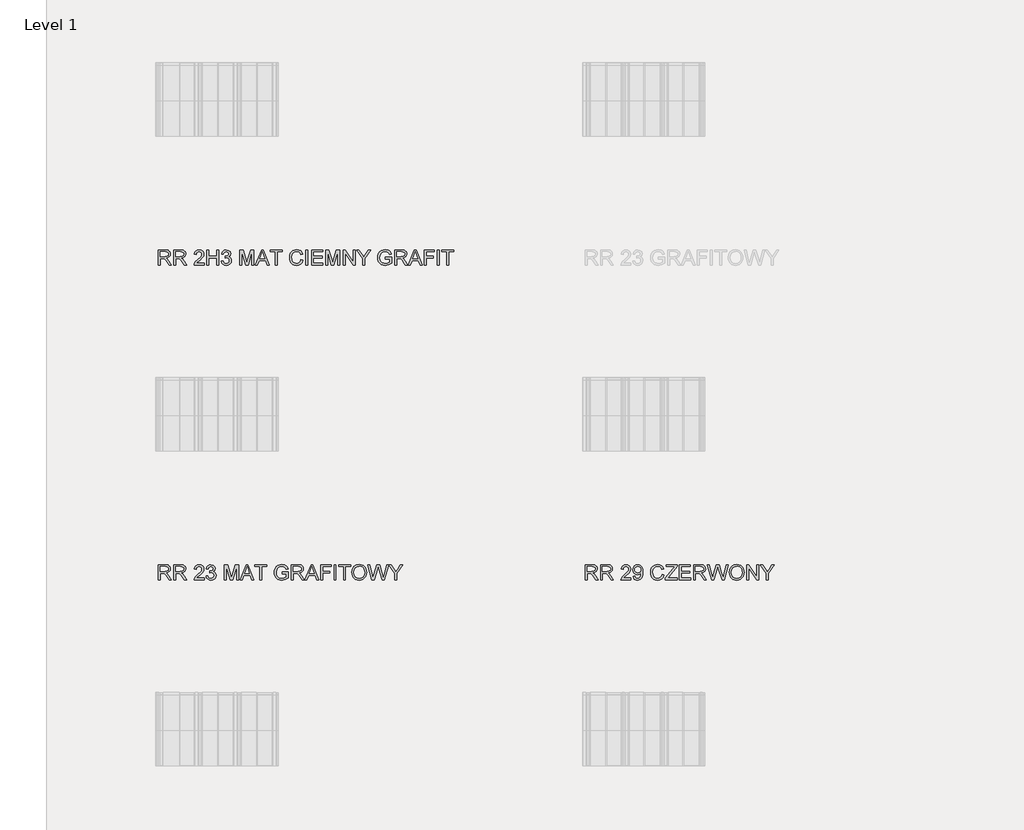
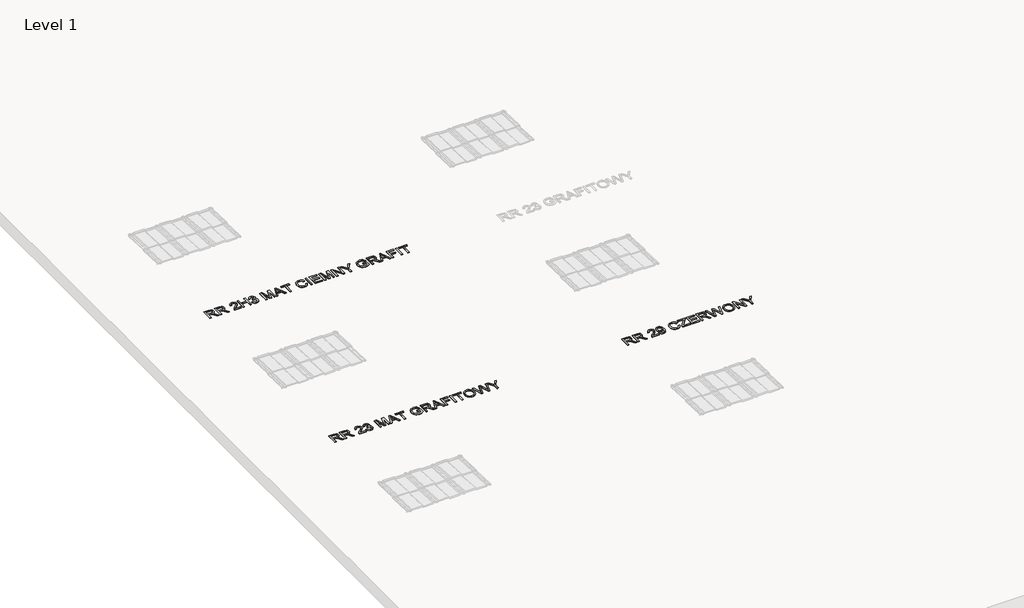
# One storey, part 4 of 9: 3 proxies.
"""IFC4 building model written with IfcOpenShell, lengths in millimetres."""

import ifcopenshell
import ifcopenshell.guid

model = None  # the IFC model being written
_history = None  # IfcOwnerHistory: only IFC2X3 demands one
_inside = {}  # id of a spatial element -> (the spatial element, [elements in it])
_under = {}  # id of a project, library or spatial element -> (it, [spatial elements below it])
_declared = {}  # id of a project -> (the project, [libraries it declares])
_typed = {}  # id of a type object -> (the type object, [elements of that type])
_made_of = {}  # id of a material, layer set ... -> (it, [elements and type objects made of it])


def new_model(schema):
    """Start an empty IFC model of exactly this schema.

    Asked for "IFC4X3", IfcOpenShell would pick the latest addendum, in which some entities
    have other attributes; the version numbers below select the first issue.
    IFC2X3 requires an IfcOwnerHistory on every rooted entity: one is made here for all.
    """
    global model, _history
    if schema == "IFC4X3":
        model = ifcopenshell.file(schema_version=(4, 3, 0, 0))
    else:
        model = ifcopenshell.file(schema=schema)
    _inside.clear()
    _under.clear()
    _declared.clear()
    _typed.clear()
    _made_of.clear()
    _history = None
    if model.schema == "IFC2X3":
        org = make("IfcOrganization", Name="unknown")
        user = make(
            "IfcPersonAndOrganization",
            ThePerson=make("IfcPerson", FamilyName="unknown"),
            TheOrganization=org,
        )
        app = make(
            "IfcApplication",
            ApplicationDeveloper=org,
            Version="unknown",
            ApplicationFullName="unknown",
            ApplicationIdentifier="unknown",
        )
        _history = make(
            "IfcOwnerHistory",
            OwningUser=user,
            OwningApplication=app,
            ChangeAction="ADDED",
            CreationDate=0,
        )
    return model


def make(cls, **values):
    """One entity of the class cls with the attributes given. An attribute that is None is left unset."""
    return model.create_entity(
        cls, **{name: value for name, value in values.items() if value is not None}
    )


def rooted(cls, **values):
    """An entity with a GlobalId (a new one), such as an element, a storey or a relation."""
    return make(cls, GlobalId=ifcopenshell.guid.new(), OwnerHistory=_history, **values)


def si_unit(unit_type, name, prefix=None):
    """IfcSIUnit, for example si_unit("LENGTHUNIT", "METRE", prefix="MILLI")."""
    return make("IfcSIUnit", UnitType=unit_type, Prefix=prefix, Name=name)


def assignment(units):
    """IfcUnitAssignment: the units of a project."""
    return None if units is None else make("IfcUnitAssignment", Units=units)


def point(xyz):
    """IfcCartesianPoint."""
    return None if xyz is None else make("IfcCartesianPoint", Coordinates=xyz)


def direction(xyz):
    """IfcDirection."""
    return None if xyz is None else make("IfcDirection", DirectionRatios=xyz)


def frame(location, z_axis=None, x_axis=None):
    """IfcAxis2Placement3D, a coordinate frame: its origin and axes. An axis left out is left unset."""
    return make(
        "IfcAxis2Placement3D",
        Location=point(location),
        Axis=direction(z_axis),
        RefDirection=direction(x_axis),
    )


def origin():
    """The frame at (0, 0, 0) with its axes left unset."""
    return frame((0.0, 0.0, 0.0))


def place(relative_to, where):
    """IfcLocalPlacement: puts the frame where relative to a parent placement (None: the world)."""
    return make(
        "IfcLocalPlacement", PlacementRelTo=relative_to, RelativePlacement=where
    )


def context(
    kind, dimensions, precision=None, world=None, true_north=None, identifier=None
):
    """IfcGeometricRepresentationContext, for example the 3D "Model" context."""
    return make(
        "IfcGeometricRepresentationContext",
        ContextIdentifier=identifier,
        ContextType=kind,
        CoordinateSpaceDimension=dimensions,
        Precision=precision,
        WorldCoordinateSystem=world,
        TrueNorth=true_north,
    )


def project(units=None, contexts=None):
    """IfcProject with its units and contexts."""
    return rooted(
        "IfcProject",
        Name="project",
        RepresentationContexts=contexts,
        UnitsInContext=assignment(units),
    )


def spatial(cls, under=None, at=None, **own):
    """A site, building, storey or space (cls), placed at a placement, below another one or the project."""
    s = rooted(cls, ObjectPlacement=at, **own)
    if under is not None:
        _under.setdefault(under.id(), (under, []))[1].append(s)
    return s


def polyline(points):
    """IfcPolyline through the points."""
    return make("IfcPolyline", Points=[point(p) for p in points])


def outline(outer, holes=None, kind="AREA"):
    """IfcArbitraryClosedProfileDef: a profile drawn as a closed curve; with holes, ...WithVoids."""
    if holes is None:
        return make("IfcArbitraryClosedProfileDef", ProfileType=kind, OuterCurve=outer)
    return make(
        "IfcArbitraryProfileDefWithVoids",
        ProfileType=kind,
        OuterCurve=outer,
        InnerCurves=holes,
    )


def extrude(swept, where, along, depth):
    """IfcExtrudedAreaSolid: the profile swept, set in the frame where, extruded along a direction by depth."""
    return make(
        "IfcExtrudedAreaSolid",
        SweptArea=swept,
        Position=where,
        ExtrudedDirection=direction(along),
        Depth=depth,
    )


def shape(context_of_items, identifier, shape_type, items):
    """IfcShapeRepresentation: the items that make up one representation, for example the "Body"."""
    return make(
        "IfcShapeRepresentation",
        ContextOfItems=context_of_items,
        RepresentationIdentifier=identifier,
        RepresentationType=shape_type,
        Items=items,
    )


def made_of(thing, what):
    """Note that an element or type object is made of a material, layer set ...; save() writes the relation."""
    if what is not None:
        _made_of.setdefault(what.id(), (what, []))[1].append(thing)
    return thing


def element(
    cls,
    number,
    at=None,
    inside=None,
    cuts=None,
    type_object=None,
    material=None,
    context=None,
    identifier="Body",
    shape_type=None,
    held_by="IfcProductDefinitionShape",
    body=None,
    shapes=None,
    **own,
):
    """One element of the class cls, such as IfcWall. Its Tag is "e" and its number.

    at: its placement. inside: the storey or other place that contains it. cuts: it is an
    opening in that element (IfcRelVoidsElement). A single representation is given by context,
    identifier, shape_type and body (its items); several are given by shapes. held_by: the class
    of the entity that holds the representations. save() writes the other relations.
    """
    e = rooted(cls, Tag="e%d" % number, ObjectPlacement=at, **own)
    if body is not None:
        shapes = [shape(context, identifier, shape_type, body)]
    if shapes is not None:
        e.Representation = make(held_by, Representations=shapes)
    if inside is not None:
        _inside.setdefault(inside.id(), (inside, []))[1].append(e)
    if cuts is not None:
        rooted(
            "IfcRelVoidsElement", RelatingBuildingElement=cuts, RelatedOpeningElement=e
        )
    if type_object is not None:
        _typed.setdefault(type_object.id(), (type_object, []))[1].append(e)
    return made_of(e, material)


def aggregate(whole, parts):
    """IfcRelAggregates: a whole, such as a stair, and the parts it consists of."""
    return rooted("IfcRelAggregates", RelatingObject=whole, RelatedObjects=parts)


def save(model, path):
    """Write the relations noted so far, then the file.

    IfcRelAggregates (storeys below a building ...), IfcRelContainedInSpatialStructure (elements
    in a storey), IfcRelDefinesByType, IfcRelAssociatesMaterial and IfcRelDeclares: one each for
    every whole, place, type object, material and project.
    """
    for whole, parts in _under.values():
        aggregate(whole, parts)
    for where, things in _inside.values():
        rooted(
            "IfcRelContainedInSpatialStructure",
            RelatedElements=things,
            RelatingStructure=where,
        )
    for kind, things in _typed.values():
        rooted("IfcRelDefinesByType", RelatedObjects=things, RelatingType=kind)
    for what, things in _made_of.values():
        rooted("IfcRelAssociatesMaterial", RelatedObjects=things, RelatingMaterial=what)
    for by, libraries in _declared.values():
        rooted("IfcRelDeclares", RelatingContext=by, RelatedDefinitions=libraries)
    model.write(path)


model = new_model("IFC4")

# Units and contexts
model_context = context("Model", 3, world=origin())
ifc_project = project(units=[si_unit("LENGTHUNIT", "METRE", prefix="MILLI")], contexts=[model_context])

# Site, building, storey
site = spatial("IfcSite", under=ifc_project)
building = spatial("IfcBuilding", under=site)
storey = spatial("IfcBuildingStorey", under=building, Name="Level 1", Elevation=0.0)

# Proxies
placement = place(None, origin())
element("IfcBuildingElementProxy", 1, Name="150 Blue", ObjectType="150 Blue", at=placement, inside=storey, context=model_context, shape_type="SweptSolid", body=[
    extrude(outline(polyline([(-8736.4118342, -1635.6514112), (-8736.4118342, -1484.966946), (-8671.4806621, -1484.966946), (-8641.3327325, -1489.032042), (-8632.0529092, -1494.6606365), (-8624.8516192, -1503.416228), (-8620.2301016, -1514.2733454), (-8618.6895957, -1526.2065176), (-8621.2417771, -1541.0505561), (-8628.8983211, -1553.3562089), (-8641.8891541, -1562.3785148), (-8660.4442022, -1567.3725129), (-8649.7388361, -1575.4291286), (-8634.4717333, -1594.8165097), (-8609.3453931, -1635.6514112), (-8631.2343718, -1635.6514112), (-8650.8424821, -1604.4182298), (-8665.0059389, -1583.7432617), (-8674.9571469, -1573.9759947), (-8683.9150735, -1570.3891452), (-8694.8411687, -1569.7269577), (-8717.576276, -1569.7269577), (-8717.576276, -1635.6514112), (-8736.4118342, -1635.6514112)]), holes=[polyline([(-8717.576276, -1550.8913995), (-8675.4169994, -1550.8913995), (-8653.9142968, -1548.224255), (-8641.7006145, -1539.6893927), (-8637.5251539, -1526.9054934), (-8639.5163152, -1517.7176406), (-8645.4897991, -1510.3140154), (-8655.7675023, -1505.4303819), (-8670.6713217, -1503.8025041), (-8717.576276, -1503.8025041), (-8717.576276, -1550.8913995)])]), frame((0.0, 0.0, 600.0), z_axis=(0.0, 0.0, 1.0), x_axis=(1.0, 0.0, 0.0)), (0.0, 0.0, 1.0), 10.0),
    extrude(outline(polyline([(-8585.727369, -1635.6514112), (-8585.727369, -1484.966946), (-8520.7961968, -1484.966946), (-8490.6482673, -1489.032042), (-8481.368444, -1494.6606365), (-8474.1671539, -1503.416228), (-8469.5456364, -1514.2733454), (-8468.0051305, -1526.2065176), (-8470.5573119, -1541.0505561), (-8478.2138559, -1553.3562089), (-8491.2046888, -1562.3785148), (-8509.759737, -1567.3725129), (-8499.0543709, -1575.4291286), (-8483.7872681, -1594.8165097), (-8458.6609278, -1635.6514112), (-8480.5499066, -1635.6514112), (-8500.1580169, -1604.4182298), (-8514.3214737, -1583.7432617), (-8524.2726817, -1573.9759947), (-8533.2306083, -1570.3891452), (-8544.1567035, -1569.7269577), (-8566.8918108, -1569.7269577), (-8566.8918108, -1635.6514112), (-8585.727369, -1635.6514112)]), holes=[polyline([(-8566.8918108, -1550.8913995), (-8524.7325342, -1550.8913995), (-8503.2298316, -1548.224255), (-8491.0161493, -1539.6893927), (-8486.8406887, -1526.9054934), (-8488.83185, -1517.7176406), (-8494.8053339, -1510.3140154), (-8505.0830371, -1505.4303819), (-8519.9868564, -1503.8025041), (-8566.8918108, -1503.8025041), (-8566.8918108, -1550.8913995)])]), frame((0.0, 0.0, 600.0), z_axis=(0.0, 0.0, 1.0), x_axis=(1.0, 0.0, 0.0)), (0.0, 0.0, 1.0), 10.0),
    extrude(outline(polyline([(-8286.7128833, -1616.815853), (-8286.7128833, -1635.6514112), (-8385.5995636, -1635.6514112), (-8383.5762126, -1622.6651768), (-8372.1166885, -1602.6707903), (-8348.5170585, -1580.8369939), (-8316.0146842, -1549.4566597), (-8309.9308357, -1538.6409291), (-8307.9028862, -1528.119504), (-8309.8204711, -1518.6879293), (-8315.5732258, -1510.8474443), (-8324.4161893, -1505.5637392), (-8335.6044005, -1503.8025041), (-8347.3536317, -1505.5223524), (-8356.4817037, -1510.6818974), (-8362.3724141, -1518.8764689), (-8364.4095607, -1529.7013966), (-8383.2451188, -1527.3469518), (-8378.6787836, -1509.127596), (-8368.8057505, -1495.8194648), (-8354.1410545, -1487.6800757), (-8335.1997303, -1484.966946), (-8316.1204503, -1487.9835783), (-8301.4833454, -1497.0334754), (-8292.1713324, -1510.5531387), (-8289.0673281, -1526.9790698), (-8292.4150542, -1544.8397407), (-8303.5434846, -1563.3074168), (-8330.5276289, -1589.1143388), (-8352.1958784, -1607.2325271), (-8360.6939525, -1616.815853), (-8286.7128833, -1616.815853)])), frame((0.0, 0.0, 600.0), z_axis=(0.0, 0.0, 1.0), x_axis=(1.0, 0.0, 0.0)), (0.0, 0.0, 1.0), 10.0),
    extrude(outline(polyline([(-8260.8139908, -1635.6514112), (-8260.8139908, -1484.966946), (-8241.9784327, -1484.966946), (-8241.9784327, -1546.18251), (-8161.9273105, -1546.18251), (-8161.9273105, -1484.966946), (-8143.0917524, -1484.966946), (-8143.0917524, -1635.6514112), (-8161.9273105, -1635.6514112), (-8161.9273105, -1565.0180681), (-8241.9784327, -1565.0180681), (-8241.9784327, -1635.6514112), (-8260.8139908, -1635.6514112)])), frame((0.0, 0.0, 600.0), z_axis=(0.0, 0.0, 1.0), x_axis=(1.0, 0.0, 0.0)), (0.0, 0.0, 1.0), 10.0),
    extrude(outline(polyline([(-8117.1928599, -1595.6258501), (-8098.3573018, -1593.2714053), (-8094.1404544, -1605.1080085), (-8087.9646354, -1613.1002449), (-8079.5263421, -1617.6527846), (-8068.522072, -1619.1702978), (-8055.6094139, -1617.0825675), (-8045.6398119, -1610.8193765), (-8039.2662563, -1601.4751738), (-8037.1417378, -1590.1444084), (-8039.2478622, -1579.3884586), (-8045.5662355, -1570.6650567), (-8055.1311673, -1564.8847109), (-8066.9769676, -1562.9579289), (-8080.1839312, -1565.0180681), (-8078.0870038, -1546.18251), (-8075.0703715, -1546.4032392), (-8053.6964276, -1540.9953738), (-8046.5779109, -1534.1343746), (-8044.2050721, -1524.3671076), (-8045.9249204, -1516.232317), (-8051.0844654, -1509.6334337), (-8058.9571401, -1505.2602365), (-8068.8163776, -1503.8025041), (-8078.6940091, -1505.2740321), (-8086.7690189, -1509.688616), (-8092.6643279, -1517.0462559), (-8096.002857, -1527.3469518), (-8114.8384152, -1524.992507), (-8109.2925941, -1508.0791323), (-8099.4241596, -1495.4515828), (-8085.9228903, -1487.5881052), (-8069.4785651, -1484.966946), (-8046.7618519, -1490.135688), (-8030.8693498, -1504.2623566), (-8025.3695139, -1523.2634617), (-8030.5934383, -1540.6274918), (-8046.0444821, -1553.0986915), (-8034.2538641, -1557.8627633), (-8025.5166667, -1565.9745613), (-8020.1088014, -1576.9926271), (-8018.3061796, -1590.4755022), (-8021.9114232, -1608.8328137), (-8032.7271538, -1624.1734929), (-8049.0519174, -1634.5477652), (-8069.1842596, -1638.005856), (-8087.3944183, -1635.0536029), (-8102.2200627, -1626.1968439), (-8112.5299556, -1612.6495894), (-8117.1928599, -1595.6258501)])), frame((0.0, 0.0, 600.0), z_axis=(0.0, 0.0, 1.0), x_axis=(1.0, 0.0, 0.0)), (0.0, 0.0, 1.0), 10.0),
    extrude(outline(polyline([(-7935.9006127, -1635.6514112), (-7935.9006127, -1484.966946), (-7903.6005735, -1484.966946), (-7872.6984859, -1591.174478), (-7866.444492, -1613.3577623), (-7859.7122515, -1589.335068), (-7829.3987751, -1484.966946), (-7796.9883713, -1484.966946), (-7796.9883713, -1635.6514112), (-7815.8239295, -1635.6514112), (-7815.8239295, -1503.8025041), (-7853.6789868, -1635.6514112), (-7879.173209, -1635.6514112), (-7917.0650545, -1503.8025041), (-7917.0650545, -1635.6514112), (-7935.9006127, -1635.6514112)])), frame((0.0, 0.0, 600.0), z_axis=(0.0, 0.0, 1.0), x_axis=(1.0, 0.0, 0.0)), (0.0, 0.0, 1.0), 10.0),
    extrude(outline(polyline([(-7781.5373275, -1635.6514112), (-7721.3886213, -1484.966946), (-7705.3489663, -1484.966946), (-7645.2370483, -1635.6514112), (-7665.1394642, -1635.6514112), (-7682.3563416, -1588.5625158), (-7744.4548224, -1588.5625158), (-7761.6716998, -1635.6514112), (-7781.5373275, -1635.6514112)]), holes=[polyline([(-7737.5386409, -1569.7269577), (-7689.2357349, -1569.7269577), (-7702.8473688, -1532.6812407), (-7713.405582, -1503.8025041), (-7722.7865729, -1529.4438792), (-7737.5386409, -1569.7269577)])]), frame((0.0, 0.0, 600.0), z_axis=(0.0, 0.0, 1.0), x_axis=(1.0, 0.0, 0.0)), (0.0, 0.0, 1.0), 10.0),
    extrude(outline(polyline([(-7587.4427869, -1635.6514112), (-7587.4427869, -1503.8025041), (-7636.886127, -1503.8025041), (-7636.886127, -1484.966946), (-7519.1638886, -1484.966946), (-7519.1638886, -1503.8025041), (-7568.6072287, -1503.8025041), (-7568.6072287, -1635.6514112), (-7587.4427869, -1635.6514112)])), frame((0.0, 0.0, 600.0), z_axis=(0.0, 0.0, 1.0), x_axis=(1.0, 0.0, 0.0)), (0.0, 0.0, 1.0), 10.0),
    extrude(outline(polyline([(-7333.1627518, -1582.0877927), (-7314.3271936, -1586.943835), (-7323.0184058, -1608.8925946), (-7336.6576308, -1624.927651), (-7354.5734839, -1634.7363047), (-7376.0945806, -1638.005856), (-7397.9421726, -1635.5318495), (-7415.2924072, -1628.1098303), (-7428.5913413, -1615.9973156), (-7438.2850319, -1599.4518229), (-7444.2033335, -1580.0000624), (-7446.1761007, -1559.1687444), (-7443.9458161, -1537.1969922), (-7437.2549623, -1518.2234783), (-7426.4530273, -1502.8506095), (-7411.8894988, -1491.6807924), (-7394.6174391, -1484.879574), (-7375.6899104, -1482.6125012), (-7355.0379349, -1485.5463601), (-7337.9636118, -1494.3479368), (-7325.00037, -1508.4746055), (-7316.6816384, -1527.38374), (-7335.5171966, -1531.8719003), (-7342.047102, -1518.1361064), (-7350.9682404, -1508.7137288), (-7362.3909763, -1503.2644767), (-7376.4256744, -1501.4480593), (-7392.6032852, -1503.4622133), (-7405.8930222, -1509.504675), (-7415.9775874, -1518.9408482), (-7422.5396825, -1531.1361364), (-7427.3405426, -1559.1319562), (-7425.9195984, -1576.5327746), (-7421.6567657, -1591.5791482), (-7414.3910963, -1603.6962614), (-7403.9616418, -1612.3092986), (-7391.4582525, -1617.455048), (-7377.9707788, -1619.1702978), (-7362.248422, -1616.8342471), (-7349.1472245, -1609.8260951), (-7339.2557973, -1598.2194182), (-7333.1627518, -1582.0877927)])), frame((0.0, 0.0, 600.0), z_axis=(0.0, 0.0, 1.0), x_axis=(1.0, 0.0, 0.0)), (0.0, 0.0, 1.0), 10.0),
    extrude(outline(polyline([(-7286.0738564, -1635.6514112), (-7286.0738564, -1484.966946), (-7267.2382983, -1484.966946), (-7267.2382983, -1635.6514112), (-7286.0738564, -1635.6514112)])), frame((0.0, 0.0, 600.0), z_axis=(0.0, 0.0, 1.0), x_axis=(1.0, 0.0, 0.0)), (0.0, 0.0, 1.0), 10.0),
    extrude(outline(polyline([(-7229.567182, -1635.6514112), (-7229.567182, -1484.966946), (-7121.2627226, -1484.966946), (-7121.2627226, -1503.8025041), (-7210.7316238, -1503.8025041), (-7210.7316238, -1548.5369547), (-7125.9716121, -1548.5369547), (-7125.9716121, -1567.3725129), (-7210.7316238, -1567.3725129), (-7210.7316238, -1616.815853), (-7118.9082778, -1616.815853), (-7118.9082778, -1635.6514112), (-7229.567182, -1635.6514112)])), frame((0.0, 0.0, 600.0), z_axis=(0.0, 0.0, 1.0), x_axis=(1.0, 0.0, 0.0)), (0.0, 0.0, 1.0), 10.0),
    extrude(outline(polyline([(-7090.6549406, -1635.6514112), (-7090.6549406, -1484.966946), (-7058.3549014, -1484.966946), (-7027.4528138, -1591.174478), (-7021.1988199, -1613.3577623), (-7014.4665794, -1589.335068), (-6984.153103, -1484.966946), (-6951.7426992, -1484.966946), (-6951.7426992, -1635.6514112), (-6970.5782574, -1635.6514112), (-6970.5782574, -1503.8025041), (-7008.4333147, -1635.6514112), (-7033.9275369, -1635.6514112), (-7071.8193824, -1503.8025041), (-7071.8193824, -1635.6514112), (-7090.6549406, -1635.6514112)])), frame((0.0, 0.0, 600.0), z_axis=(0.0, 0.0, 1.0), x_axis=(1.0, 0.0, 0.0)), (0.0, 0.0, 1.0), 10.0),
    extrude(outline(polyline([(-6918.7804724, -1635.6514112), (-6918.7804724, -1484.966946), (-6898.6205391, -1484.966946), (-6819.8937921, -1604.3446534), (-6819.8937921, -1484.966946), (-6801.058234, -1484.966946), (-6801.058234, -1635.6514112), (-6821.2181673, -1635.6514112), (-6899.9449143, -1516.2369156), (-6899.9449143, -1635.6514112), (-6918.7804724, -1635.6514112)])), frame((0.0, 0.0, 600.0), z_axis=(0.0, 0.0, 1.0), x_axis=(1.0, 0.0, 0.0)), (0.0, 0.0, 1.0), 10.0),
    extrude(outline(polyline([(-6725.7160014, -1635.6514112), (-6725.7160014, -1571.823885), (-6784.5771206, -1484.966946), (-6762.3938363, -1484.966946), (-6730.9767139, -1531.3568656), (-6714.9002707, -1555.048466), (-6698.7502511, -1529.6646084), (-6670.2393965, -1484.966946), (-6648.019324, -1484.966946), (-6706.8804432, -1571.823885), (-6706.8804432, -1635.6514112), (-6725.7160014, -1635.6514112)])), frame((0.0, 0.0, 600.0), z_axis=(0.0, 0.0, 1.0), x_axis=(1.0, 0.0, 0.0)), (0.0, 0.0, 1.0), 10.0),
    extrude(outline(polyline([(-6502.0437483, -1576.790292), (-6502.0437483, -1557.9547338), (-6440.8281843, -1557.9547338), (-6440.8281843, -1614.2774673), (-6471.0496902, -1632.0461676), (-6503.0002415, -1638.005856), (-6524.1304636, -1635.6376156), (-6543.2281377, -1628.5328946), (-6559.0930487, -1616.9400132), (-6570.5249817, -1601.1072918), (-6577.4365647, -1582.1153838), (-6579.7404257, -1561.0449426), (-6577.4457617, -1539.82275), (-6570.5617699, -1520.0812824), (-6559.3735587, -1503.5219941), (-6544.1662367, -1491.8463393), (-6525.6433783, -1484.9209607), (-6504.5085577, -1482.6125012), (-6475.0412099, -1487.9651842), (-6463.2919786, -1494.3663309), (-6454.3846358, -1502.864405), (-6442.9986881, -1527.7884102), (-6460.3627182, -1532.6812407), (-6468.9527628, -1515.2620283), (-6483.6312544, -1505.2188498), (-6504.8028633, -1501.4480593), (-6528.917528, -1505.5131554), (-6545.325065, -1516.1817333), (-6555.0187556, -1530.694678), (-6560.9048675, -1560.2723904), (-6559.1344354, -1578.2848126), (-6553.8231391, -1593.1058584), (-6545.131927, -1604.6297619), (-6533.2217474, -1612.750757), (-6519.2836183, -1617.5654126), (-6504.5085577, -1619.1702978), (-6478.7384239, -1614.3326496), (-6459.6637425, -1604.0135596), (-6459.6637425, -1576.790292), (-6502.0437483, -1576.790292)])), frame((0.0, 0.0, 600.0), z_axis=(0.0, 0.0, 1.0), x_axis=(1.0, 0.0, 0.0)), (0.0, 0.0, 1.0), 10.0),
    extrude(outline(polyline([(-6410.2204023, -1635.6514112), (-6410.2204023, -1484.966946), (-6345.2892302, -1484.966946), (-6315.1413006, -1489.032042), (-6305.8614773, -1494.6606365), (-6298.6601873, -1503.416228), (-6294.0386697, -1514.2733454), (-6292.4981638, -1526.2065176), (-6295.0503452, -1541.0505561), (-6302.7068892, -1553.3562089), (-6315.6977222, -1562.3785148), (-6334.2527703, -1567.3725129), (-6323.5474042, -1575.4291286), (-6308.2803014, -1594.8165097), (-6283.1539612, -1635.6514112), (-6305.0429399, -1635.6514112), (-6324.6510502, -1604.4182298), (-6338.814507, -1583.7432617), (-6348.765715, -1573.9759947), (-6357.7236416, -1570.3891452), (-6368.6497368, -1569.7269577), (-6391.3848441, -1569.7269577), (-6391.3848441, -1635.6514112), (-6410.2204023, -1635.6514112)]), holes=[polyline([(-6391.3848441, -1550.8913995), (-6349.2255675, -1550.8913995), (-6327.7228649, -1548.224255), (-6315.5091826, -1539.6893927), (-6311.333722, -1526.9054934), (-6313.3248833, -1517.7176406), (-6319.2983672, -1510.3140154), (-6329.5760704, -1505.4303819), (-6344.4798898, -1503.8025041), (-6391.3848441, -1503.8025041), (-6391.3848441, -1550.8913995)])]), frame((0.0, 0.0, 600.0), z_axis=(0.0, 0.0, 1.0), x_axis=(1.0, 0.0, 0.0)), (0.0, 0.0, 1.0), 10.0),
    extrude(outline(polyline([(-6277.04712, -1635.6514112), (-6216.8984138, -1484.966946), (-6200.8587588, -1484.966946), (-6140.7468408, -1635.6514112), (-6160.6492568, -1635.6514112), (-6177.8661341, -1588.5625158), (-6239.9646149, -1588.5625158), (-6257.1814923, -1635.6514112), (-6277.04712, -1635.6514112)]), holes=[polyline([(-6233.0484334, -1569.7269577), (-6184.7455275, -1569.7269577), (-6198.3571613, -1532.6812407), (-6208.9153745, -1503.8025041), (-6218.2963654, -1529.4438792), (-6233.0484334, -1569.7269577)])]), frame((0.0, 0.0, 600.0), z_axis=(0.0, 0.0, 1.0), x_axis=(1.0, 0.0, 0.0)), (0.0, 0.0, 1.0), 10.0),
    extrude(outline(polyline([(-6120.6236957, -1635.6514112), (-6120.6236957, -1484.966946), (-6019.3825706, -1484.966946), (-6019.3825706, -1503.8025041), (-6101.7881375, -1503.8025041), (-6101.7881375, -1548.5369547), (-6031.1547945, -1548.5369547), (-6031.1547945, -1567.3725129), (-6101.7881375, -1567.3725129), (-6101.7881375, -1635.6514112), (-6120.6236957, -1635.6514112)])), frame((0.0, 0.0, 600.0), z_axis=(0.0, 0.0, 1.0), x_axis=(1.0, 0.0, 0.0)), (0.0, 0.0, 1.0), 10.0),
    extrude(outline(polyline([(-5991.1292334, -1635.6514112), (-5991.1292334, -1484.966946), (-5972.2936752, -1484.966946), (-5972.2936752, -1635.6514112), (-5991.1292334, -1635.6514112)])), frame((0.0, 0.0, 600.0), z_axis=(0.0, 0.0, 1.0), x_axis=(1.0, 0.0, 0.0)), (0.0, 0.0, 1.0), 10.0),
    extrude(outline(polyline([(-5896.9514426, -1635.6514112), (-5896.9514426, -1503.8025041), (-5946.3947828, -1503.8025041), (-5946.3947828, -1484.966946), (-5828.6725443, -1484.966946), (-5828.6725443, -1503.8025041), (-5878.1158845, -1503.8025041), (-5878.1158845, -1635.6514112), (-5896.9514426, -1635.6514112)])), frame((0.0, 0.0, 600.0), z_axis=(0.0, 0.0, 1.0), x_axis=(1.0, 0.0, 0.0)), (0.0, 0.0, 1.0), 10.0),
])
element("IfcBuildingElementProxy", 2, Name="150 Blue", ObjectType="150 Blue", at=placement, inside=storey, context=model_context, shape_type="SweptSolid", body=[
    extrude(outline(polyline([(-8736.4118342, -4735.6514112), (-8736.4118342, -4584.966946), (-8671.4806621, -4584.966946), (-8641.3327325, -4589.032042), (-8632.0529092, -4594.6606365), (-8624.8516192, -4603.416228), (-8620.2301016, -4614.2733454), (-8618.6895957, -4626.2065176), (-8621.2417771, -4641.0505561), (-8628.8983211, -4653.3562089), (-8641.8891541, -4662.3785148), (-8660.4442022, -4667.3725129), (-8649.7388361, -4675.4291286), (-8634.4717333, -4694.8165097), (-8609.3453931, -4735.6514112), (-8631.2343718, -4735.6514112), (-8650.8424821, -4704.4182298), (-8665.0059389, -4683.7432617), (-8674.9571469, -4673.9759947), (-8683.9150735, -4670.3891452), (-8694.8411687, -4669.7269577), (-8717.576276, -4669.7269577), (-8717.576276, -4735.6514112), (-8736.4118342, -4735.6514112)]), holes=[polyline([(-8717.576276, -4650.8913995), (-8675.4169994, -4650.8913995), (-8653.9142968, -4648.224255), (-8641.7006145, -4639.6893927), (-8637.5251539, -4626.9054934), (-8639.5163152, -4617.7176406), (-8645.4897991, -4610.3140154), (-8655.7675023, -4605.4303819), (-8670.6713217, -4603.8025041), (-8717.576276, -4603.8025041), (-8717.576276, -4650.8913995)])]), frame((0.0, 0.0, 600.0), z_axis=(0.0, 0.0, 1.0), x_axis=(1.0, 0.0, 0.0)), (0.0, 0.0, 1.0), 10.0),
    extrude(outline(polyline([(-8585.727369, -4735.6514112), (-8585.727369, -4584.966946), (-8520.7961968, -4584.966946), (-8490.6482673, -4589.032042), (-8481.368444, -4594.6606365), (-8474.1671539, -4603.416228), (-8469.5456364, -4614.2733454), (-8468.0051305, -4626.2065176), (-8470.5573119, -4641.0505561), (-8478.2138559, -4653.3562089), (-8491.2046888, -4662.3785148), (-8509.759737, -4667.3725129), (-8499.0543709, -4675.4291286), (-8483.7872681, -4694.8165097), (-8458.6609278, -4735.6514112), (-8480.5499066, -4735.6514112), (-8500.1580169, -4704.4182298), (-8514.3214737, -4683.7432617), (-8524.2726817, -4673.9759947), (-8533.2306083, -4670.3891452), (-8544.1567035, -4669.7269577), (-8566.8918108, -4669.7269577), (-8566.8918108, -4735.6514112), (-8585.727369, -4735.6514112)]), holes=[polyline([(-8566.8918108, -4650.8913995), (-8524.7325342, -4650.8913995), (-8503.2298316, -4648.224255), (-8491.0161493, -4639.6893927), (-8486.8406887, -4626.9054934), (-8488.83185, -4617.7176406), (-8494.8053339, -4610.3140154), (-8505.0830371, -4605.4303819), (-8519.9868564, -4603.8025041), (-8566.8918108, -4603.8025041), (-8566.8918108, -4650.8913995)])]), frame((0.0, 0.0, 600.0), z_axis=(0.0, 0.0, 1.0), x_axis=(1.0, 0.0, 0.0)), (0.0, 0.0, 1.0), 10.0),
    extrude(outline(polyline([(-8286.7128833, -4716.815853), (-8286.7128833, -4735.6514112), (-8385.5995636, -4735.6514112), (-8383.5762126, -4722.6651768), (-8372.1166885, -4702.6707903), (-8348.5170585, -4680.8369939), (-8316.0146842, -4649.4566597), (-8309.9308357, -4638.6409291), (-8307.9028862, -4628.119504), (-8309.8204711, -4618.6879293), (-8315.5732258, -4610.8474443), (-8324.4161893, -4605.5637392), (-8335.6044005, -4603.8025041), (-8347.3536317, -4605.5223524), (-8356.4817037, -4610.6818974), (-8362.3724141, -4618.8764689), (-8364.4095607, -4629.7013966), (-8383.2451188, -4627.3469518), (-8378.6787836, -4609.127596), (-8368.8057505, -4595.8194648), (-8354.1410545, -4587.6800757), (-8335.1997303, -4584.966946), (-8316.1204503, -4587.9835783), (-8301.4833454, -4597.0334754), (-8292.1713324, -4610.5531387), (-8289.0673281, -4626.9790698), (-8292.4150542, -4644.8397407), (-8303.5434846, -4663.3074168), (-8330.5276289, -4689.1143388), (-8352.1958784, -4707.2325271), (-8360.6939525, -4716.815853), (-8286.7128833, -4716.815853)])), frame((0.0, 0.0, 600.0), z_axis=(0.0, 0.0, 1.0), x_axis=(1.0, 0.0, 0.0)), (0.0, 0.0, 1.0), 10.0),
    extrude(outline(polyline([(-8267.8773251, -4695.6258501), (-8249.041767, -4693.2714053), (-8244.8249196, -4705.1080085), (-8238.6491006, -4713.1002449), (-8230.2108074, -4717.6527846), (-8219.2065372, -4719.1702978), (-8206.2938792, -4717.0825675), (-8196.3242771, -4710.8193765), (-8189.9507215, -4701.4751738), (-8187.826203, -4690.1444084), (-8189.9323274, -4679.3884586), (-8196.2507007, -4670.6650567), (-8205.8156326, -4664.8847109), (-8217.6614328, -4662.9579289), (-8230.8683964, -4665.0180681), (-8228.7714691, -4646.18251), (-8225.7548367, -4646.4032392), (-8204.3808928, -4640.9953738), (-8197.2623762, -4634.1343746), (-8194.8895373, -4624.3671076), (-8196.6093856, -4616.232317), (-8201.7689306, -4609.6334337), (-8209.6416053, -4605.2602365), (-8219.5008428, -4603.8025041), (-8229.3784744, -4605.2740321), (-8237.4534841, -4609.688616), (-8243.3487931, -4617.0462559), (-8246.6873222, -4627.3469518), (-8265.5228804, -4624.992507), (-8259.9770593, -4608.0791323), (-8250.1086248, -4595.4515828), (-8236.6073556, -4587.5881052), (-8220.1630304, -4584.966946), (-8197.4463172, -4590.135688), (-8181.553815, -4604.2623566), (-8176.0539791, -4623.2634617), (-8181.2779035, -4640.6274918), (-8196.7289473, -4653.0986915), (-8184.9383293, -4657.8627633), (-8176.2011319, -4665.9745613), (-8170.7932666, -4676.9926271), (-8168.9906448, -4690.4755022), (-8172.5958884, -4708.8328137), (-8183.4116191, -4724.1734929), (-8199.7363826, -4734.5477652), (-8219.8687248, -4738.005856), (-8238.0788835, -4735.0536029), (-8252.9045279, -4726.1968439), (-8263.2144209, -4712.6495894), (-8267.8773251, -4695.6258501)])), frame((0.0, 0.0, 600.0), z_axis=(0.0, 0.0, 1.0), x_axis=(1.0, 0.0, 0.0)), (0.0, 0.0, 1.0), 10.0),
    extrude(outline(polyline([(-8086.5850779, -4735.6514112), (-8086.5850779, -4584.966946), (-8054.2850387, -4584.966946), (-8023.3829512, -4691.174478), (-8017.1289572, -4713.3577623), (-8010.3967167, -4689.335068), (-7980.0832403, -4584.966946), (-7947.6728365, -4584.966946), (-7947.6728365, -4735.6514112), (-7966.5083947, -4735.6514112), (-7966.5083947, -4603.8025041), (-8004.363452, -4735.6514112), (-8029.8576743, -4735.6514112), (-8067.7495198, -4603.8025041), (-8067.7495198, -4735.6514112), (-8086.5850779, -4735.6514112)])), frame((0.0, 0.0, 600.0), z_axis=(0.0, 0.0, 1.0), x_axis=(1.0, 0.0, 0.0)), (0.0, 0.0, 1.0), 10.0),
    extrude(outline(polyline([(-7932.2217927, -4735.6514112), (-7872.0730865, -4584.966946), (-7856.0334315, -4584.966946), (-7795.9215135, -4735.6514112), (-7815.8239295, -4735.6514112), (-7833.0408068, -4688.5625158), (-7895.1392876, -4688.5625158), (-7912.356165, -4735.6514112), (-7932.2217927, -4735.6514112)]), holes=[polyline([(-7888.2231061, -4669.7269577), (-7839.9202002, -4669.7269577), (-7853.531834, -4632.6812407), (-7864.0900472, -4603.8025041), (-7873.4710381, -4629.4438792), (-7888.2231061, -4669.7269577)])]), frame((0.0, 0.0, 600.0), z_axis=(0.0, 0.0, 1.0), x_axis=(1.0, 0.0, 0.0)), (0.0, 0.0, 1.0), 10.0),
    extrude(outline(polyline([(-7738.1272521, -4735.6514112), (-7738.1272521, -4603.8025041), (-7787.5705922, -4603.8025041), (-7787.5705922, -4584.966946), (-7669.8483538, -4584.966946), (-7669.8483538, -4603.8025041), (-7719.2916939, -4603.8025041), (-7719.2916939, -4735.6514112), (-7738.1272521, -4735.6514112)])), frame((0.0, 0.0, 600.0), z_axis=(0.0, 0.0, 1.0), x_axis=(1.0, 0.0, 0.0)), (0.0, 0.0, 1.0), 10.0),
    extrude(outline(polyline([(-7519.1638886, -4676.790292), (-7519.1638886, -4657.9547338), (-7457.9483246, -4657.9547338), (-7457.9483246, -4714.2774673), (-7488.1698305, -4732.0461676), (-7520.1203817, -4738.005856), (-7541.2506038, -4735.6376156), (-7560.3482779, -4728.5328946), (-7576.213189, -4716.9400132), (-7587.645122, -4701.1072918), (-7594.5567049, -4682.1153838), (-7596.8605659, -4661.0449426), (-7594.565902, -4639.82275), (-7587.6819102, -4620.0812824), (-7576.493699, -4603.5219941), (-7561.286377, -4591.8463393), (-7542.7635186, -4584.9209607), (-7521.6286979, -4582.6125012), (-7492.1613501, -4587.9651842), (-7480.4121189, -4594.3663309), (-7471.5047761, -4602.864405), (-7460.1188283, -4627.7884102), (-7477.4828585, -4632.6812407), (-7486.0729031, -4615.2620283), (-7500.7513947, -4605.2188498), (-7521.9230035, -4601.4480593), (-7546.0376683, -4605.5131554), (-7562.4452053, -4616.1817333), (-7572.1388959, -4630.694678), (-7578.0250078, -4660.2723904), (-7576.2545757, -4678.2848126), (-7570.9432794, -4693.1058584), (-7562.2520672, -4704.6297619), (-7550.3418877, -4712.750757), (-7536.4037586, -4717.5654126), (-7521.6286979, -4719.1702978), (-7495.8585642, -4714.3326496), (-7476.7838827, -4704.0135596), (-7476.7838827, -4676.790292), (-7519.1638886, -4676.790292)])), frame((0.0, 0.0, 600.0), z_axis=(0.0, 0.0, 1.0), x_axis=(1.0, 0.0, 0.0)), (0.0, 0.0, 1.0), 10.0),
    extrude(outline(polyline([(-7427.3405426, -4735.6514112), (-7427.3405426, -4584.966946), (-7362.4093704, -4584.966946), (-7332.2614409, -4589.032042), (-7322.9816176, -4594.6606365), (-7315.7803275, -4603.416228), (-7311.15881, -4614.2733454), (-7309.6183041, -4626.2065176), (-7312.1704855, -4641.0505561), (-7319.8270295, -4653.3562089), (-7332.8178624, -4662.3785148), (-7351.3729106, -4667.3725129), (-7340.6675445, -4675.4291286), (-7325.4004417, -4694.8165097), (-7300.2741014, -4735.6514112), (-7322.1630801, -4735.6514112), (-7341.7711905, -4704.4182298), (-7355.9346473, -4683.7432617), (-7365.8858553, -4673.9759947), (-7374.8437819, -4670.3891452), (-7385.7698771, -4669.7269577), (-7408.5049844, -4669.7269577), (-7408.5049844, -4735.6514112), (-7427.3405426, -4735.6514112)]), holes=[polyline([(-7408.5049844, -4650.8913995), (-7366.3457078, -4650.8913995), (-7344.8430051, -4648.224255), (-7332.6293229, -4639.6893927), (-7328.4538623, -4626.9054934), (-7330.4450236, -4617.7176406), (-7336.4185075, -4610.3140154), (-7346.6962107, -4605.4303819), (-7361.60003, -4603.8025041), (-7408.5049844, -4603.8025041), (-7408.5049844, -4650.8913995)])]), frame((0.0, 0.0, 600.0), z_axis=(0.0, 0.0, 1.0), x_axis=(1.0, 0.0, 0.0)), (0.0, 0.0, 1.0), 10.0),
    extrude(outline(polyline([(-7294.1672603, -4735.6514112), (-7234.0185541, -4584.966946), (-7217.9788991, -4584.966946), (-7157.8669811, -4735.6514112), (-7177.769397, -4735.6514112), (-7194.9862744, -4688.5625158), (-7257.0847552, -4688.5625158), (-7274.3016326, -4735.6514112), (-7294.1672603, -4735.6514112)]), holes=[polyline([(-7250.1685737, -4669.7269577), (-7201.8656677, -4669.7269577), (-7215.4773015, -4632.6812407), (-7226.0355148, -4603.8025041), (-7235.4165057, -4629.4438792), (-7250.1685737, -4669.7269577)])]), frame((0.0, 0.0, 600.0), z_axis=(0.0, 0.0, 1.0), x_axis=(1.0, 0.0, 0.0)), (0.0, 0.0, 1.0), 10.0),
    extrude(outline(polyline([(-7137.743836, -4735.6514112), (-7137.743836, -4584.966946), (-7036.5027109, -4584.966946), (-7036.5027109, -4603.8025041), (-7118.9082778, -4603.8025041), (-7118.9082778, -4648.5369547), (-7048.2749347, -4648.5369547), (-7048.2749347, -4667.3725129), (-7118.9082778, -4667.3725129), (-7118.9082778, -4735.6514112), (-7137.743836, -4735.6514112)])), frame((0.0, 0.0, 600.0), z_axis=(0.0, 0.0, 1.0), x_axis=(1.0, 0.0, 0.0)), (0.0, 0.0, 1.0), 10.0),
    extrude(outline(polyline([(-7008.2493737, -4735.6514112), (-7008.2493737, -4584.966946), (-6989.4138155, -4584.966946), (-6989.4138155, -4735.6514112), (-7008.2493737, -4735.6514112)])), frame((0.0, 0.0, 600.0), z_axis=(0.0, 0.0, 1.0), x_axis=(1.0, 0.0, 0.0)), (0.0, 0.0, 1.0), 10.0),
    extrude(outline(polyline([(-6914.0715829, -4735.6514112), (-6914.0715829, -4603.8025041), (-6963.514923, -4603.8025041), (-6963.514923, -4584.966946), (-6845.7926846, -4584.966946), (-6845.7926846, -4603.8025041), (-6895.2360247, -4603.8025041), (-6895.2360247, -4735.6514112), (-6914.0715829, -4735.6514112)])), frame((0.0, 0.0, 600.0), z_axis=(0.0, 0.0, 1.0), x_axis=(1.0, 0.0, 0.0)), (0.0, 0.0, 1.0), 10.0),
    extrude(outline(polyline([(-6831.666016, -4662.2957413), (-6826.6444267, -4628.9748296), (-6820.3674402, -4615.356298), (-6811.579659, -4603.7657159), (-6788.5778373, -4587.9008049), (-6759.7450859, -4582.6125012), (-6739.9806257, -4585.0957047), (-6722.2579106, -4592.5453151), (-6707.5426308, -4604.4371006), (-6696.8004765, -4620.2468293), (-6690.2337829, -4639.2111462), (-6688.0448851, -4660.566696), (-6690.3487461, -4682.2073543), (-6697.260329, -4701.4383856), (-6708.3979564, -4717.2757055), (-6723.3799507, -4728.7352297), (-6740.9509145, -4735.6881994), (-6759.8554505, -4738.005856), (-6779.9234134, -4735.4444776), (-6797.747296, -4727.7603424), (-6812.4257876, -4715.6478277), (-6823.0575773, -4699.8013108), (-6829.5139063, -4681.5681594), (-6831.666016, -4662.2957413)]), holes=[polyline([(-6812.8304578, -4662.4796823), (-6809.0642659, -4686.0517212), (-6797.7656901, -4704.0135596), (-6780.7833375, -4715.3811133), (-6759.9658151, -4719.1702978), (-6738.8447901, -4715.3443251), (-6721.8348463, -4703.8664068), (-6710.619044, -4685.3527454), (-6706.8804432, -4660.4195432), (-6708.4807299, -4643.7452917), (-6713.2815899, -4629.3335146), (-6721.1588631, -4617.5474952), (-6731.9883894, -4608.750517), (-6745.0527987, -4603.2736737), (-6759.6347213, -4601.4480593), (-6779.8958222, -4604.9659309), (-6797.1218966, -4615.5195457), (-6808.9033175, -4634.295323), (-6812.8304578, -4662.4796823)])]), frame((0.0, 0.0, 600.0), z_axis=(0.0, 0.0, 1.0), x_axis=(1.0, 0.0, 0.0)), (0.0, 0.0, 1.0), 10.0),
    extrude(outline(polyline([(-6635.1802424, -4735.6514112), (-6676.2726612, -4584.966946), (-6656.8484919, -4584.966946), (-6633.0097386, -4684.0007791), (-6625.6520987, -4714.5717729), (-6617.779424, -4687.5324462), (-6587.907406, -4584.966946), (-6559.9115861, -4584.966946), (-6538.2065484, -4659.3158972), (-6522.0565288, -4714.5717729), (-6514.9196181, -4684.8836959), (-6490.8969238, -4584.966946), (-6471.4359663, -4584.966946), (-6512.491597, -4735.6514112), (-6532.6515303, -4735.6514112), (-6568.8143304, -4619.4007007), (-6573.8543138, -4603.1771047), (-6579.5196965, -4622.7116387), (-6612.445135, -4735.6514112), (-6635.1802424, -4735.6514112)])), frame((0.0, 0.0, 600.0), z_axis=(0.0, 0.0, 1.0), x_axis=(1.0, 0.0, 0.0)), (0.0, 0.0, 1.0), 10.0),
    extrude(outline(polyline([(-6410.2204023, -4735.6514112), (-6410.2204023, -4671.823885), (-6469.0815215, -4584.966946), (-6446.8982372, -4584.966946), (-6415.4811148, -4631.3568656), (-6399.4046716, -4655.048466), (-6383.2546521, -4629.6646084), (-6354.7437974, -4584.966946), (-6332.5237249, -4584.966946), (-6391.3848441, -4671.823885), (-6391.3848441, -4735.6514112), (-6410.2204023, -4735.6514112)])), frame((0.0, 0.0, 600.0), z_axis=(0.0, 0.0, 1.0), x_axis=(1.0, 0.0, 0.0)), (0.0, 0.0, 1.0), 10.0),
])
element("IfcBuildingElementProxy", 3, Name="150 Blue", ObjectType="150 Blue", at=placement, inside=storey, context=model_context, shape_type="SweptSolid", body=[
    extrude(outline(polyline([(-4536.4118342, -4735.6514112), (-4536.4118342, -4584.966946), (-4471.4806621, -4584.966946), (-4441.3327325, -4589.032042), (-4432.0529092, -4594.6606365), (-4424.8516192, -4603.416228), (-4420.2301016, -4614.2733454), (-4418.6895957, -4626.2065176), (-4421.2417771, -4641.0505561), (-4428.8983211, -4653.3562089), (-4441.8891541, -4662.3785148), (-4460.4442022, -4667.3725129), (-4449.7388361, -4675.4291286), (-4434.4717333, -4694.8165097), (-4409.3453931, -4735.6514112), (-4431.2343718, -4735.6514112), (-4450.8424821, -4704.4182298), (-4465.0059389, -4683.7432617), (-4474.9571469, -4673.9759947), (-4483.9150735, -4670.3891452), (-4494.8411687, -4669.7269577), (-4517.576276, -4669.7269577), (-4517.576276, -4735.6514112), (-4536.4118342, -4735.6514112)]), holes=[polyline([(-4517.576276, -4650.8913995), (-4475.4169994, -4650.8913995), (-4453.9142968, -4648.224255), (-4441.7006145, -4639.6893927), (-4437.5251539, -4626.9054934), (-4439.5163152, -4617.7176406), (-4445.4897991, -4610.3140154), (-4455.7675023, -4605.4303819), (-4470.6713217, -4603.8025041), (-4517.576276, -4603.8025041), (-4517.576276, -4650.8913995)])]), frame((0.0, 0.0, 600.0), z_axis=(0.0, 0.0, 1.0), x_axis=(1.0, 0.0, 0.0)), (0.0, 0.0, 1.0), 10.0),
    extrude(outline(polyline([(-4385.727369, -4735.6514112), (-4385.727369, -4584.966946), (-4320.7961968, -4584.966946), (-4290.6482673, -4589.032042), (-4281.368444, -4594.6606365), (-4274.1671539, -4603.416228), (-4269.5456364, -4614.2733454), (-4268.0051305, -4626.2065176), (-4270.5573119, -4641.0505561), (-4278.2138559, -4653.3562089), (-4291.2046888, -4662.3785148), (-4309.759737, -4667.3725129), (-4299.0543709, -4675.4291286), (-4283.7872681, -4694.8165097), (-4258.6609278, -4735.6514112), (-4280.5499066, -4735.6514112), (-4300.1580169, -4704.4182298), (-4314.3214737, -4683.7432617), (-4324.2726817, -4673.9759947), (-4333.2306083, -4670.3891452), (-4344.1567035, -4669.7269577), (-4366.8918108, -4669.7269577), (-4366.8918108, -4735.6514112), (-4385.727369, -4735.6514112)]), holes=[polyline([(-4366.8918108, -4650.8913995), (-4324.7325342, -4650.8913995), (-4303.2298316, -4648.224255), (-4291.0161493, -4639.6893927), (-4286.8406887, -4626.9054934), (-4288.83185, -4617.7176406), (-4294.8053339, -4610.3140154), (-4305.0830371, -4605.4303819), (-4319.9868564, -4603.8025041), (-4366.8918108, -4603.8025041), (-4366.8918108, -4650.8913995)])]), frame((0.0, 0.0, 600.0), z_axis=(0.0, 0.0, 1.0), x_axis=(1.0, 0.0, 0.0)), (0.0, 0.0, 1.0), 10.0),
    extrude(outline(polyline([(-4086.7128833, -4716.815853), (-4086.7128833, -4735.6514112), (-4185.5995636, -4735.6514112), (-4183.5762126, -4722.6651768), (-4172.1166885, -4702.6707903), (-4148.5170585, -4680.8369939), (-4116.0146842, -4649.4566597), (-4109.9308357, -4638.6409291), (-4107.9028862, -4628.119504), (-4109.8204711, -4618.6879293), (-4115.5732258, -4610.8474443), (-4124.4161893, -4605.5637392), (-4135.6044005, -4603.8025041), (-4147.3536317, -4605.5223524), (-4156.4817037, -4610.6818974), (-4162.3724141, -4618.8764689), (-4164.4095607, -4629.7013966), (-4183.2451188, -4627.3469518), (-4178.6787836, -4609.127596), (-4168.8057505, -4595.8194648), (-4154.1410545, -4587.6800757), (-4135.1997303, -4584.966946), (-4116.1204503, -4587.9835783), (-4101.4833454, -4597.0334754), (-4092.1713324, -4610.5531387), (-4089.0673281, -4626.9790698), (-4092.4150542, -4644.8397407), (-4103.5434846, -4663.3074168), (-4130.5276289, -4689.1143388), (-4152.1958784, -4707.2325271), (-4160.6939525, -4716.815853), (-4086.7128833, -4716.815853)])), frame((0.0, 0.0, 600.0), z_axis=(0.0, 0.0, 1.0), x_axis=(1.0, 0.0, 0.0)), (0.0, 0.0, 1.0), 10.0),
    extrude(outline(polyline([(-4065.5228804, -4697.9802949), (-4046.6873222, -4695.6258501), (-4043.4683548, -4706.3174206), (-4038.2260363, -4713.5968856), (-4031.0891256, -4717.7769447), (-4022.1863813, -4719.1702978), (-4006.9376726, -4715.5834484), (-3996.6001886, -4706.0001224), (-3990.4381652, -4689.6293736), (-3987.7158384, -4667.7771831), (-3987.826203, -4664.0983631), (-4002.8909707, -4678.3721845), (-4023.5475447, -4683.8536263), (-4040.7230354, -4680.5059001), (-4055.0198494, -4670.4627216), (-4064.6629562, -4654.9472985), (-4067.8773251, -4635.1828383), (-4064.5066064, -4614.7653876), (-4054.39445, -4598.7625208), (-4039.2055221, -4588.4158397), (-4020.6044888, -4584.966946), (-4006.5559951, -4586.9351146), (-3993.7674972, -4592.8396207), (-3983.0713282, -4602.3861584), (-3975.2998211, -4615.2804224), (-3970.5679389, -4633.104305), (-3968.9906448, -4657.439699), (-3970.5633404, -4683.2420225), (-3975.281427, -4703.1858251), (-3983.1035179, -4718.1724179), (-3993.9882264, -4729.1031117), (-4007.466503, -4735.7801699), (-4023.0692981, -4738.005856), (-4039.1733325, -4735.3800982), (-4052.0216112, -4727.502825), (-4061.0071289, -4714.870677), (-4065.5228804, -4697.9802949)]), holes=[polyline([(-3987.826203, -4634.7413799), (-3989.858751, -4621.9758747), (-3995.9563951, -4612.1534254), (-4005.4201594, -4605.8902344), (-4017.5510682, -4603.8025041), (-4030.1326324, -4606.0511828), (-4040.2125991, -4612.7972189), (-4046.834475, -4623.1209074), (-4049.041767, -4636.1025433), (-4046.9540367, -4647.7414099), (-4040.6908457, -4656.9798465), (-4030.8591994, -4663.0085127), (-4018.066103, -4665.0180681), (-4006.0317632, -4663.0085127), (-3996.3426712, -4656.9798465), (-3989.95532, -4647.4011191), (-3987.826203, -4634.7413799)])]), frame((0.0, 0.0, 600.0), z_axis=(0.0, 0.0, 1.0), x_axis=(1.0, 0.0, 0.0)), (0.0, 0.0, 1.0), 10.0),
    extrude(outline(polyline([(-3780.6350633, -4682.0877927), (-3761.7995052, -4686.943835), (-3770.4907173, -4708.8925946), (-3784.1299423, -4724.927651), (-3802.0457954, -4734.7363047), (-3823.5668921, -4738.005856), (-3845.4144841, -4735.5318495), (-3862.7647187, -4728.1098303), (-3876.0636529, -4715.9973156), (-3885.7573434, -4699.4518229), (-3891.675645, -4680.0000624), (-3893.6484122, -4659.1687444), (-3891.4181276, -4637.1969922), (-3884.7272738, -4618.2234783), (-3873.9253388, -4602.8506095), (-3859.3618103, -4591.6807924), (-3842.0897506, -4584.879574), (-3823.162222, -4582.6125012), (-3802.5102464, -4585.5463601), (-3785.4359233, -4594.3479368), (-3772.4726815, -4608.4746055), (-3764.1539499, -4627.38374), (-3782.9895081, -4631.8719003), (-3789.5194135, -4618.1361064), (-3798.4405519, -4608.7137288), (-3809.8632878, -4603.2644767), (-3823.8979859, -4601.4480593), (-3840.0755967, -4603.4622133), (-3853.3653338, -4609.504675), (-3863.449899, -4618.9408482), (-3870.011994, -4631.1361364), (-3874.8128541, -4659.1319562), (-3873.3919099, -4676.5327746), (-3869.1290773, -4691.5791482), (-3861.8634078, -4703.6962614), (-3851.4339533, -4712.3092986), (-3838.930564, -4717.455048), (-3825.4430903, -4719.1702978), (-3809.7207336, -4716.8342471), (-3796.619536, -4709.8260951), (-3786.7281089, -4698.2194182), (-3780.6350633, -4682.0877927)])), frame((0.0, 0.0, 600.0), z_axis=(0.0, 0.0, 1.0), x_axis=(1.0, 0.0, 0.0)), (0.0, 0.0, 1.0), 10.0),
    extrude(outline(polyline([(-3747.6728365, -4735.6514112), (-3747.6728365, -4716.1168772), (-3670.6383468, -4621.7183573), (-3655.9966433, -4603.8025041), (-3738.2550575, -4603.8025041), (-3738.2550575, -4584.966946), (-3632.3050429, -4584.966946), (-3632.3050429, -4603.8025041), (-3716.6235962, -4707.1037684), (-3724.5698472, -4716.815853), (-3629.9505981, -4716.815853), (-3629.9505981, -4735.6514112), (-3747.6728365, -4735.6514112)])), frame((0.0, 0.0, 600.0), z_axis=(0.0, 0.0, 1.0), x_axis=(1.0, 0.0, 0.0)), (0.0, 0.0, 1.0), 10.0),
    extrude(outline(polyline([(-3608.7605952, -4735.6514112), (-3608.7605952, -4584.966946), (-3500.4561358, -4584.966946), (-3500.4561358, -4603.8025041), (-3589.925037, -4603.8025041), (-3589.925037, -4648.5369547), (-3505.1650253, -4648.5369547), (-3505.1650253, -4667.3725129), (-3589.925037, -4667.3725129), (-3589.925037, -4716.815853), (-3498.101691, -4716.815853), (-3498.101691, -4735.6514112), (-3608.7605952, -4735.6514112)])), frame((0.0, 0.0, 600.0), z_axis=(0.0, 0.0, 1.0), x_axis=(1.0, 0.0, 0.0)), (0.0, 0.0, 1.0), 10.0),
    extrude(outline(polyline([(-3469.8483538, -4735.6514112), (-3469.8483538, -4584.966946), (-3404.9171816, -4584.966946), (-3374.7692521, -4589.032042), (-3365.4894288, -4594.6606365), (-3358.2881387, -4603.416228), (-3353.6666212, -4614.2733454), (-3352.1261153, -4626.2065176), (-3354.6782967, -4641.0505561), (-3362.3348407, -4653.3562089), (-3375.3256737, -4662.3785148), (-3393.8807218, -4667.3725129), (-3383.1753557, -4675.4291286), (-3367.9082529, -4694.8165097), (-3342.7819127, -4735.6514112), (-3364.6708914, -4735.6514112), (-3384.2790017, -4704.4182298), (-3398.4424585, -4683.7432617), (-3408.3936665, -4673.9759947), (-3417.3515931, -4670.3891452), (-3428.2776883, -4669.7269577), (-3451.0127956, -4669.7269577), (-3451.0127956, -4735.6514112), (-3469.8483538, -4735.6514112)]), holes=[polyline([(-3451.0127956, -4650.8913995), (-3408.853519, -4650.8913995), (-3387.3508164, -4648.224255), (-3375.1371341, -4639.6893927), (-3370.9616735, -4626.9054934), (-3372.9528348, -4617.7176406), (-3378.9263187, -4610.3140154), (-3389.2040219, -4605.4303819), (-3404.1078412, -4603.8025041), (-3451.0127956, -4603.8025041), (-3451.0127956, -4650.8913995)])]), frame((0.0, 0.0, 600.0), z_axis=(0.0, 0.0, 1.0), x_axis=(1.0, 0.0, 0.0)), (0.0, 0.0, 1.0), 10.0),
    extrude(outline(polyline([(-3292.1981383, -4735.6514112), (-3333.2905572, -4584.966946), (-3313.8663878, -4584.966946), (-3290.0276345, -4684.0007791), (-3282.6699946, -4714.5717729), (-3274.7973199, -4687.5324462), (-3244.9253019, -4584.966946), (-3216.9294821, -4584.966946), (-3195.2244444, -4659.3158972), (-3179.0744248, -4714.5717729), (-3171.9375141, -4684.8836959), (-3147.9148198, -4584.966946), (-3128.4538623, -4584.966946), (-3169.5094929, -4735.6514112), (-3189.6694263, -4735.6514112), (-3225.8322264, -4619.4007007), (-3230.8722097, -4603.1771047), (-3236.5375924, -4622.7116387), (-3269.463031, -4735.6514112), (-3292.1981383, -4735.6514112)])), frame((0.0, 0.0, 600.0), z_axis=(0.0, 0.0, 1.0), x_axis=(1.0, 0.0, 0.0)), (0.0, 0.0, 1.0), 10.0),
    extrude(outline(polyline([(-3116.6816384, -4662.2957413), (-3111.6600492, -4628.9748296), (-3105.3830626, -4615.356298), (-3096.5952815, -4603.7657159), (-3073.5934597, -4587.9008049), (-3044.7607084, -4582.6125012), (-3024.9962482, -4585.0957047), (-3007.2735331, -4592.5453151), (-2992.5582532, -4604.4371006), (-2981.816099, -4620.2468293), (-2975.2494054, -4639.2111462), (-2973.0605075, -4660.566696), (-2975.3643685, -4682.2073543), (-2982.2759515, -4701.4383856), (-2993.4135789, -4717.2757055), (-3008.3955731, -4728.7352297), (-3025.9665369, -4735.6881994), (-3044.871073, -4738.005856), (-3064.9390358, -4735.4444776), (-3082.7629185, -4727.7603424), (-3097.4414101, -4715.6478277), (-3108.0731997, -4699.8013108), (-3114.5295287, -4681.5681594), (-3116.6816384, -4662.2957413)]), holes=[polyline([(-3097.8460803, -4662.4796823), (-3094.0798883, -4686.0517212), (-3082.7813126, -4704.0135596), (-3065.79896, -4715.3811133), (-3044.9814376, -4719.1702978), (-3023.8604125, -4715.3443251), (-3006.8504688, -4703.8664068), (-2995.6346664, -4685.3527454), (-2991.8960657, -4660.4195432), (-2993.4963523, -4643.7452917), (-2998.2972124, -4629.3335146), (-3006.1744856, -4617.5474952), (-3017.0040118, -4608.750517), (-3030.0684212, -4603.2736737), (-3044.6503438, -4601.4480593), (-3064.9114446, -4604.9659309), (-3082.1375191, -4615.5195457), (-3093.91894, -4634.295323), (-3097.8460803, -4662.4796823)])]), frame((0.0, 0.0, 600.0), z_axis=(0.0, 0.0, 1.0), x_axis=(1.0, 0.0, 0.0)), (0.0, 0.0, 1.0), 10.0),
    extrude(outline(polyline([(-2947.161615, -4735.6514112), (-2947.161615, -4584.966946), (-2927.0016817, -4584.966946), (-2848.2749347, -4704.3446534), (-2848.2749347, -4584.966946), (-2829.4393766, -4584.966946), (-2829.4393766, -4735.6514112), (-2849.5993099, -4735.6514112), (-2928.3260569, -4616.2369156), (-2928.3260569, -4735.6514112), (-2947.161615, -4735.6514112)])), frame((0.0, 0.0, 600.0), z_axis=(0.0, 0.0, 1.0), x_axis=(1.0, 0.0, 0.0)), (0.0, 0.0, 1.0), 10.0),
    extrude(outline(polyline([(-2754.097144, -4735.6514112), (-2754.097144, -4671.823885), (-2812.9582632, -4584.966946), (-2790.7749789, -4584.966946), (-2759.3578565, -4631.3568656), (-2743.2814133, -4655.048466), (-2727.1313937, -4629.6646084), (-2698.6205391, -4584.966946), (-2676.4004666, -4584.966946), (-2735.2615858, -4671.823885), (-2735.2615858, -4735.6514112), (-2754.097144, -4735.6514112)])), frame((0.0, 0.0, 600.0), z_axis=(0.0, 0.0, 1.0), x_axis=(1.0, 0.0, 0.0)), (0.0, 0.0, 1.0), 10.0),
])

save(model, "model.ifc")
